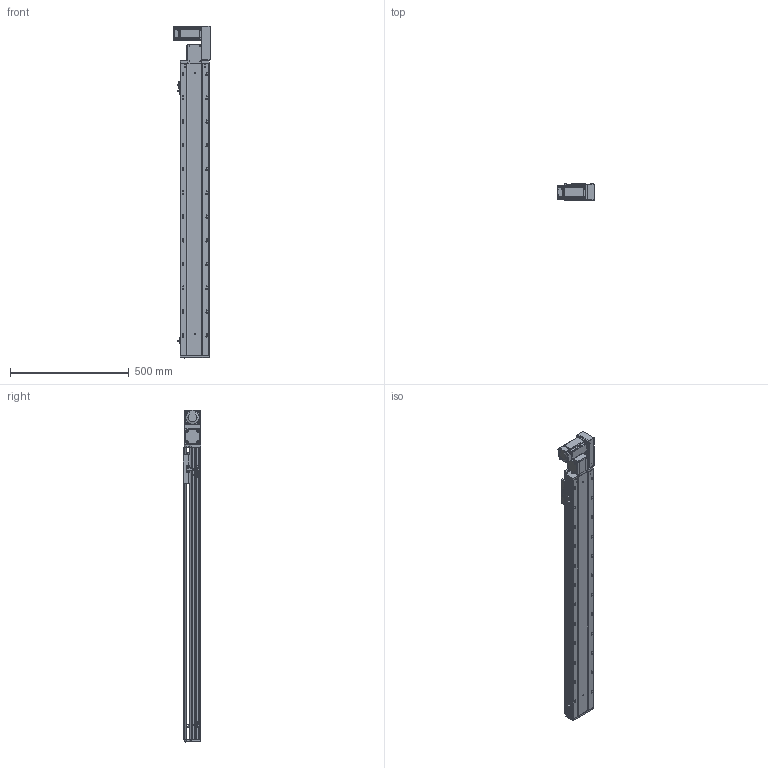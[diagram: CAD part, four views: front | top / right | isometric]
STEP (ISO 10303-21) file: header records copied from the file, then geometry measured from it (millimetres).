
FILE_DESCRIPTION (( 'STEP AP203' ), '1' );
FILE_NAME ('RY120-T-300-RK.SLDASM_1000.step', '2021-03-01T03:53:38', ( '盈信电脑' ), ( '东莞市道滘镇水果街19号' ), 'SwSTEP 2.0', 'SolidWorks 2012', '' );
FILE_SCHEMA (( 'CONFIG_CONTROL_DESIGN' ));
Length unit declared in the file: millimetre
Products named in the file (17): RY120-T萇儂欶; RY120-T主同步轮轴承压盖; RY120-T萇儂假蚾啣; 15; RY120-T蹟翐M4; RY120-T-300-RK.SLDASM_1000; RY120-T翋肮祭盓傅釱; RY120-T翋肮祭謫裔啣; 滅袉蝶18-10; RY120外置感应片(140共用）; RY120-T肮祭湍揤踡輸1; RY120-T肮祭湍揤踡輸2; RY120綴裔啣; 覜茼ん672; RY120肮祭湍臏賑輸; RY120-T-300-RK倰第菁釱_1000; RY120-T-300-RK倰第奻裔啣_1000
Assembly tree (22 placements, depth 2):
  RY120-T-300-RK.SLDASM_1000
    RY120-T-300-RK倰第菁釱_1000
    RY120-T-300-RK倰第奻裔啣_1000
    RY120肮祭湍臏賑輸
    RY120綴裔啣
    覜茼ん672  x3
    RY120外置感应片(140共用）
    RY120-T肮祭湍揤踡輸1
    RY120-T肮祭湍揤踡輸2
    RY120-T翋肮祭盓傅釱
    滅袉蝶18-10  x2
    RY120-T翋肮祭謫裔啣
    15
    RY120-T萇儂假蚾啣
    RY120-T蹟翐M4  x4
    RY120-T萇儂欶
    RY120-T主同步轮轴承压盖
Bounding box: 155.5 x 73 x 1397.5 mm (x, y, z)
Volume: 3608952.8 mm3; surface area: 1352624 mm2
Topology: 23 solids, 23 shells, 3022 faces, 8320 edges, 5350 vertices
Faces by surface type: plane 1462, cylinder 1212, cone 259, bspline 89
Entity records: 98587 total; most frequent: CARTESIAN_POINT 26408, ORIENTED_EDGE 15064, DIRECTION 13982, EDGE_CURVE 7532, VERTEX_POINT 4937, AXIS2_PLACEMENT_3D 4719, VECTOR 4544, LINE 4544
